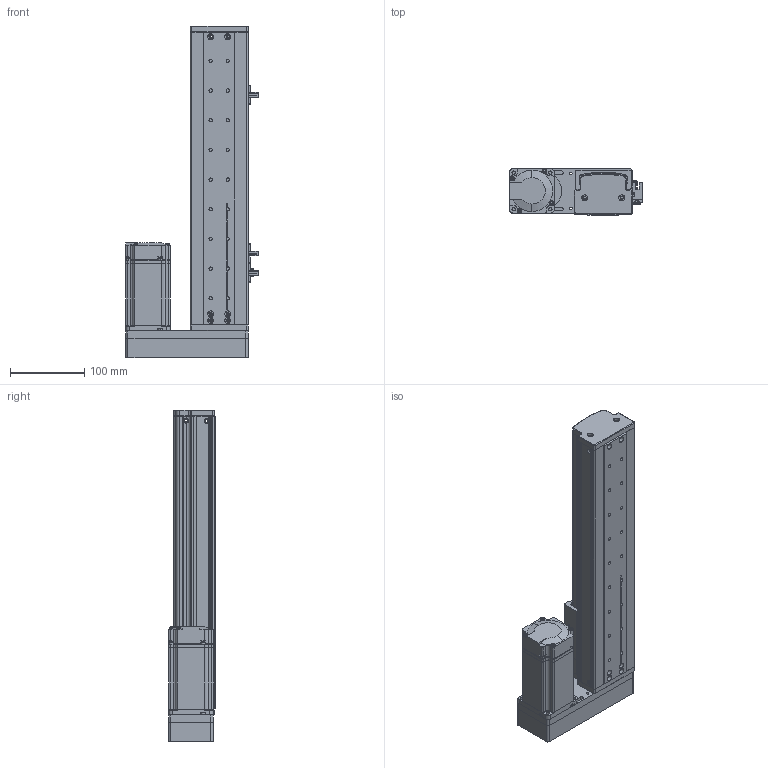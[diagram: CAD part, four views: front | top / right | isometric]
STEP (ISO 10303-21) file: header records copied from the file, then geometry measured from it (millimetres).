
FILE_DESCRIPTION (( 'STEP AP214' ), '1' );
FILE_NAME ('KSD75S-S240-MR-CM.STEP', '2019-10-18T07:13:10', ( '微软用户' ), ( '微软中国' ), 'SwSTEP 2.0', 'SolidWorks 2014', '' );
FILE_SCHEMA (( 'AUTOMOTIVE_DESIGN' ));
Length unit declared in the file: millimetre
Products named in the file (13): U倰嫖萇EEㄜSX672; 覜茼え100遵圉猾敕; MHMD042G1CA_2_03; 75宽模组保护罩左右折; 75宽马达安装板连板左右折丝杆; 綴傷啣 ; ヶ傷啣; 75裔啣-240俴最; 75遵耀郪耜啣-240俴最; 75遵賑雄釱; MGW15H賑寢240俴最 ; MGW15H賑寢240俴最; KSD75S-S240-MR-CM
Assembly tree (15 placements, depth 3):
  KSD75S-S240-MR-CM
    MGW15H賑寢240俴最 
      MGW15H賑寢240俴最
    75遵賑雄釱
    75遵耀郪耜啣-240俴最  x2
    75裔啣-240俴最
    ヶ傷啣
    綴傷啣 
    75宽马达安装板连板左右折丝杆
    75宽模组保护罩左右折
    MHMD042G1CA_2_03
    覜茼え100遵圉猾敕
    U倰嫖萇EEㄜSX672  x3
Bounding box: 178.7 x 63 x 447.5 mm (x, y, z)
Volume: 687115.8 mm3; surface area: 430857.6 mm2
Topology: 13 solids, 14 shells, 1423 faces, 4042 edges, 2637 vertices
Faces by surface type: cylinder 659, plane 617, cone 129, bspline 18
Entity records: 45686 total; most frequent: CARTESIAN_POINT 8718, DIRECTION 6764, ORIENTED_EDGE 6364, EDGE_CURVE 3253, AXIS2_PLACEMENT_3D 2462, VERTEX_POINT 2155, LINE 1840, VECTOR 1840
